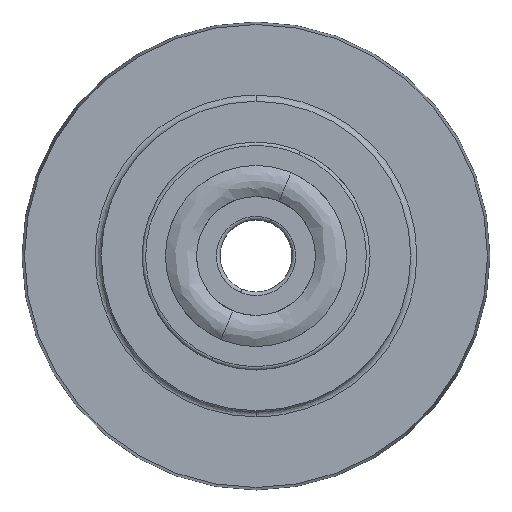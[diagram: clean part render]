
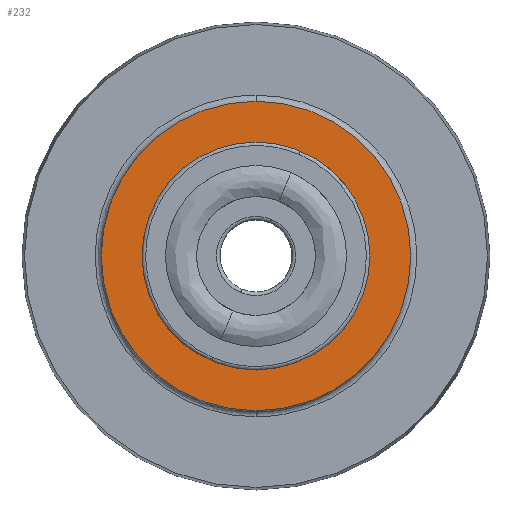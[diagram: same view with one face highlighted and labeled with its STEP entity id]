
A CAD part, front view. The second image highlights one B-rep face of the part: STEP entity #232.
In plain terms, the highlighted planar face has unit normal (0, -1, 0).
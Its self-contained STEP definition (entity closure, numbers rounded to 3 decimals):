
#15 = ORIENTED_EDGE ( 'NONE', *, *, #1308, .F. ) ;
#63 = VERTEX_POINT ( 'NONE', #528 ) ;
#134 = ORIENTED_EDGE ( 'NONE', *, *, #787, .F. ) ;
#232 = ADVANCED_FACE ( 'NONE', ( #3542, #331 ), #2505, .T. ) ;
#331 = FACE_OUTER_BOUND ( 'NONE', #3831, .T. ) ;
#528 = CARTESIAN_POINT ( 'NONE',  ( 0., -8.8, -12.9 ) ) ;
#553 = AXIS2_PLACEMENT_3D ( 'NONE', #939, #3190, #1255 ) ;
#555 = AXIS2_PLACEMENT_3D ( 'NONE', #652, #2923, #989 ) ;
#644 = CIRCLE ( 'NONE', #1069, 9.5 ) ;
#652 = CARTESIAN_POINT ( 'NONE',  ( 0., -8.8, 0. ) ) ;
#787 = EDGE_CURVE ( 'NONE', #2993, #63, #1922, .T. ) ;
#927 = CARTESIAN_POINT ( 'NONE',  ( 0., -8.8, 12.9 ) ) ;
#939 = CARTESIAN_POINT ( 'NONE',  ( 0., -8.8, 0. ) ) ;
#989 = DIRECTION ( 'NONE',  ( 0., 0., 1. ) ) ;
#1045 = ORIENTED_EDGE ( 'NONE', *, *, #3787, .T. ) ;
#1069 = AXIS2_PLACEMENT_3D ( 'NONE', #1095, #3346, #1426 ) ;
#1095 = CARTESIAN_POINT ( 'NONE',  ( 0., -8.8, 0. ) ) ;
#1234 = EDGE_CURVE ( 'NONE', #3006, #2873, #3888, .T. ) ;
#1255 = DIRECTION ( 'NONE',  ( 0., 0., 1. ) ) ;
#1308 = EDGE_CURVE ( 'NONE', #63, #2993, #2020, .T. ) ;
#1358 = DIRECTION ( 'NONE',  ( 0., 1., 0. ) ) ;
#1426 = DIRECTION ( 'NONE',  ( 0., 0., 1. ) ) ;
#1922 = CIRCLE ( 'NONE', #553, 12.9 ) ;
#2020 = CIRCLE ( 'NONE', #2514, 12.9 ) ;
#2505 = PLANE ( 'NONE',  #2755 ) ;
#2514 = AXIS2_PLACEMENT_3D ( 'NONE', #3275, #1358, #3585 ) ;
#2755 = AXIS2_PLACEMENT_3D ( 'NONE', #3467, #3763, #3777 ) ;
#2806 = EDGE_LOOP ( 'NONE', ( #1045, #3290 ) ) ;
#2873 = VERTEX_POINT ( 'NONE', #3722 ) ;
#2923 = DIRECTION ( 'NONE',  ( 0., 1., 0. ) ) ;
#2993 = VERTEX_POINT ( 'NONE', #927 ) ;
#3006 = VERTEX_POINT ( 'NONE', #4100 ) ;
#3190 = DIRECTION ( 'NONE',  ( 0., 1., 0. ) ) ;
#3275 = CARTESIAN_POINT ( 'NONE',  ( 0., -8.8, 0. ) ) ;
#3290 = ORIENTED_EDGE ( 'NONE', *, *, #1234, .T. ) ;
#3346 = DIRECTION ( 'NONE',  ( 0., 1., 0. ) ) ;
#3467 = CARTESIAN_POINT ( 'NONE',  ( 9.5, -8.8, 0. ) ) ;
#3542 = FACE_BOUND ( 'NONE', #2806, .T. ) ;
#3585 = DIRECTION ( 'NONE',  ( 0., 0., 1. ) ) ;
#3722 = CARTESIAN_POINT ( 'NONE',  ( 0., -8.8, 9.5 ) ) ;
#3763 = DIRECTION ( 'NONE',  ( 0., -1., 0. ) ) ;
#3777 = DIRECTION ( 'NONE',  ( 0., 0., -1. ) ) ;
#3787 = EDGE_CURVE ( 'NONE', #2873, #3006, #644, .T. ) ;
#3831 = EDGE_LOOP ( 'NONE', ( #134, #15 ) ) ;
#3888 = CIRCLE ( 'NONE', #555, 9.5 ) ;
#4100 = CARTESIAN_POINT ( 'NONE',  ( 0., -8.8, -9.5 ) ) ;
